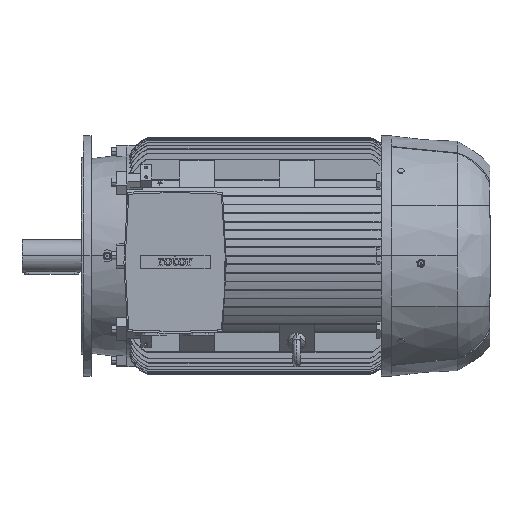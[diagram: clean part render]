
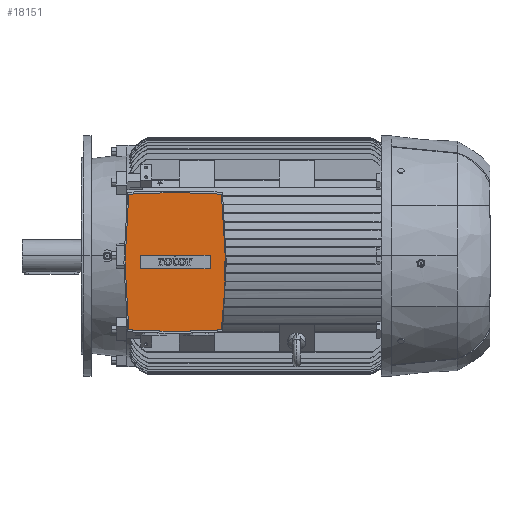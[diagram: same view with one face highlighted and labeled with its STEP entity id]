
A CAD part, top view. The second image highlights one B-rep face of the part: STEP entity #18151.
In plain terms, the highlighted planar face has unit normal (0, 0, 1).
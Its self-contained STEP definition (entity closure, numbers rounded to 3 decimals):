
#700 = B_SPLINE_CURVE_WITH_KNOTS ( 'NONE', 3,
 ( #14699, #5758, #10453, #18887 ),
 .UNSPECIFIED., .F., .F.,
 ( 4, 4 ),
 ( 0., 0.5 ),
 .UNSPECIFIED. ) ;
#977 = CARTESIAN_POINT ( 'NONE',  ( 4.096, 140.6, 433. ) ) ;
#1240 = VERTEX_POINT ( 'NONE', #26705 ) ;
#1309 = CARTESIAN_POINT ( 'NONE',  ( 215.904, -169.6, 433. ) ) ;
#1624 = B_SPLINE_CURVE_WITH_KNOTS ( 'NONE', 3,
 ( #38995, #46918, #18308, #47278, #22486, #51422 ),
 .UNSPECIFIED., .F., .F.,
 ( 4, 2, 4 ),
 ( 0., 0.5, 1. ),
 .UNSPECIFIED. ) ;
#1727 = ORIENTED_EDGE ( 'NONE', *, *, #26916, .F. ) ;
#3203 = CARTESIAN_POINT ( 'NONE',  ( 39.333, -172.199, 433. ) ) ;
#3645 = CARTESIAN_POINT ( 'NONE',  ( -1.629, 89.112, 433. ) ) ;
#5138 = VECTOR ( 'NONE', #40012, 1000. ) ;
#5290 = ORIENTED_EDGE ( 'NONE', *, *, #7889, .F. ) ;
#5758 = CARTESIAN_POINT ( 'NONE',  ( -1.629, -118.112, 433. ) ) ;
#5975 = CARTESIAN_POINT ( 'NONE',  ( 110., -173.5, 433. ) ) ;
#6400 = VERTEX_POINT ( 'NONE', #51946 ) ;
#6584 = CARTESIAN_POINT ( 'NONE',  ( 190., -14.5, 433. ) ) ;
#7063 = CARTESIAN_POINT ( 'NONE',  ( 30., -14.5, 433. ) ) ;
#7427 = ORIENTED_EDGE ( 'NONE', *, *, #27654, .F. ) ;
#7492 = CARTESIAN_POINT ( 'NONE',  ( 110., -14.5, 433. ) ) ;
#7889 = EDGE_CURVE ( 'NONE', #29086, #30637, #700, .T. ) ;
#10006 = ORIENTED_EDGE ( 'NONE', *, *, #26277, .T. ) ;
#10453 = CARTESIAN_POINT ( 'NONE',  ( -4.5, -66.306, 433. ) ) ;
#11352 = DIRECTION ( 'NONE',  ( 0., 1., 0. ) ) ;
#11798 = DIRECTION ( 'NONE',  ( 0., 0., 1. ) ) ;
#11861 = CARTESIAN_POINT ( 'NONE',  ( 110., 144.5, 433. ) ) ;
#12167 = CARTESIAN_POINT ( 'NONE',  ( 30., 0.5, 433. ) ) ;
#13347 = CARTESIAN_POINT ( 'NONE',  ( 4.096, 140.6, 433. ) ) ;
#13861 = LINE ( 'NONE', #44323, #45633 ) ;
#14699 = CARTESIAN_POINT ( 'NONE',  ( 4.096, -169.6, 433. ) ) ;
#15036 = CARTESIAN_POINT ( 'NONE',  ( 110., 0.5, 433. ) ) ;
#15297 = CARTESIAN_POINT ( 'NONE',  ( 215.904, 140.6, 433. ) ) ;
#16462 = VERTEX_POINT ( 'NONE', #52742 ) ;
#16903 = FACE_OUTER_BOUND ( 'NONE', #36081, .T. ) ;
#17746 = LINE ( 'NONE', #6584, #5138 ) ;
#18051 = CARTESIAN_POINT ( 'NONE',  ( 110., 144.5, 433. ) ) ;
#18151 = ADVANCED_FACE ( 'NONE', ( #16903, #38965 ), #32558, .T. ) ;
#18308 = CARTESIAN_POINT ( 'NONE',  ( 224.5, 37.306, 433. ) ) ;
#18887 = CARTESIAN_POINT ( 'NONE',  ( -4.5, -14.5, 433. ) ) ;
#19267 = CARTESIAN_POINT ( 'NONE',  ( -4.5, -14.5, 433. ) ) ;
#22382 = CARTESIAN_POINT ( 'NONE',  ( 215.904, -169.6, 433. ) ) ;
#22486 = CARTESIAN_POINT ( 'NONE',  ( 221.629, -118.112, 433. ) ) ;
#22739 = CARTESIAN_POINT ( 'NONE',  ( 180.667, -172.199, 433. ) ) ;
#23372 = VERTEX_POINT ( 'NONE', #12167 ) ;
#23456 = ORIENTED_EDGE ( 'NONE', *, *, #25707, .T. ) ;
#23901 = VERTEX_POINT ( 'NONE', #26634 ) ;
#24208 = CARTESIAN_POINT ( 'NONE',  ( 110., -173.5, 433. ) ) ;
#24620 = EDGE_CURVE ( 'NONE', #6400, #16462, #13861, .T. ) ;
#24625 = CARTESIAN_POINT ( 'NONE',  ( -4.5, -14.5, 433. ) ) ;
#24869 = ORIENTED_EDGE ( 'NONE', *, *, #24620, .T. ) ;
#25167 = EDGE_CURVE ( 'NONE', #16462, #23372, #44983, .T. ) ;
#25707 = EDGE_CURVE ( 'NONE', #23372, #23901, #32097, .T. ) ;
#26277 = EDGE_CURVE ( 'NONE', #23901, #6400, #17746, .T. ) ;
#26634 = CARTESIAN_POINT ( 'NONE',  ( 190., 0.5, 433. ) ) ;
#26705 = CARTESIAN_POINT ( 'NONE',  ( 110., -173.5, 433. ) ) ;
#26800 = AXIS2_PLACEMENT_3D ( 'NONE', #7492, #11798, #40881 ) ;
#26916 = EDGE_CURVE ( 'NONE', #29254, #49216, #40100, .T. ) ;
#27243 = EDGE_CURVE ( 'NONE', #34463, #29254, #45686, .T. ) ;
#27654 = EDGE_CURVE ( 'NONE', #30637, #34463, #52455, .T. ) ;
#28120 = EDGE_CURVE ( 'NONE', #1240, #29086, #29261, .T. ) ;
#28288 = EDGE_CURVE ( 'NONE', #46655, #1240, #34941, .T. ) ;
#28389 = CARTESIAN_POINT ( 'NONE',  ( 74.667, -173.5, 433. ) ) ;
#28448 = CARTESIAN_POINT ( 'NONE',  ( 180.667, 143.199, 433. ) ) ;
#28684 = EDGE_CURVE ( 'NONE', #49216, #46655, #1624, .T. ) ;
#28806 = CARTESIAN_POINT ( 'NONE',  ( -4.5, 37.306, 433. ) ) ;
#29086 = VERTEX_POINT ( 'NONE', #50242 ) ;
#29254 = VERTEX_POINT ( 'NONE', #46621 ) ;
#29261 = B_SPLINE_CURVE_WITH_KNOTS ( 'NONE', 3,
 ( #24208, #28389, #3203, #32569 ),
 .UNSPECIFIED., .F., .F.,
 ( 4, 4 ),
 ( 0., 1. ),
 .UNSPECIFIED. ) ;
#30022 = ORIENTED_EDGE ( 'NONE', *, *, #28288, .F. ) ;
#30399 = CARTESIAN_POINT ( 'NONE',  ( 39.333, 143.199, 433. ) ) ;
#30637 = VERTEX_POINT ( 'NONE', #19267 ) ;
#31080 = CARTESIAN_POINT ( 'NONE',  ( 145.333, -173.5, 433. ) ) ;
#32097 = LINE ( 'NONE', #15036, #52752 ) ;
#32558 = PLANE ( 'NONE',  #26800 ) ;
#32569 = CARTESIAN_POINT ( 'NONE',  ( 4.096, -169.6, 433. ) ) ;
#32987 = CARTESIAN_POINT ( 'NONE',  ( 4.096, 140.6, 433. ) ) ;
#34007 = VECTOR ( 'NONE', #11352, 1000. ) ;
#34463 = VERTEX_POINT ( 'NONE', #13347 ) ;
#34941 = B_SPLINE_CURVE_WITH_KNOTS ( 'NONE', 3,
 ( #1309, #22739, #31080, #5975 ),
 .UNSPECIFIED., .F., .F.,
 ( 4, 4 ),
 ( 0., 1. ),
 .UNSPECIFIED. ) ;
#36081 = EDGE_LOOP ( 'NONE', ( #1727, #44767, #7427, #5290, #51075, #30022, #50360 ) ) ;
#38965 = FACE_BOUND ( 'NONE', #41688, .T. ) ;
#38995 = CARTESIAN_POINT ( 'NONE',  ( 215.904, 140.6, 433. ) ) ;
#39893 = DIRECTION ( 'NONE',  ( 1., 0., 0. ) ) ;
#40012 = DIRECTION ( 'NONE',  ( 0., -1., 0. ) ) ;
#40100 = B_SPLINE_CURVE_WITH_KNOTS ( 'NONE', 3,
 ( #11861, #49055, #28448, #40945 ),
 .UNSPECIFIED., .F., .F.,
 ( 4, 4 ),
 ( 0., 1. ),
 .UNSPECIFIED. ) ;
#40881 = DIRECTION ( 'NONE',  ( 1., 0., 0. ) ) ;
#40945 = CARTESIAN_POINT ( 'NONE',  ( 215.904, 140.6, 433. ) ) ;
#41688 = EDGE_LOOP ( 'NONE', ( #23456, #10006, #24869, #48516 ) ) ;
#42890 = CARTESIAN_POINT ( 'NONE',  ( 74.667, 144.5, 433. ) ) ;
#44323 = CARTESIAN_POINT ( 'NONE',  ( 110., -29.5, 433. ) ) ;
#44767 = ORIENTED_EDGE ( 'NONE', *, *, #27243, .F. ) ;
#44983 = LINE ( 'NONE', #7063, #34007 ) ;
#45633 = VECTOR ( 'NONE', #48114, 1000. ) ;
#45686 = B_SPLINE_CURVE_WITH_KNOTS ( 'NONE', 3,
 ( #977, #30399, #42890, #18051 ),
 .UNSPECIFIED., .F., .F.,
 ( 4, 4 ),
 ( 0., 1. ),
 .UNSPECIFIED. ) ;
#46621 = CARTESIAN_POINT ( 'NONE',  ( 110., 144.5, 433. ) ) ;
#46655 = VERTEX_POINT ( 'NONE', #22382 ) ;
#46918 = CARTESIAN_POINT ( 'NONE',  ( 221.629, 89.112, 433. ) ) ;
#47278 = CARTESIAN_POINT ( 'NONE',  ( 224.5, -66.306, 433. ) ) ;
#48114 = DIRECTION ( 'NONE',  ( -1., 0., 0. ) ) ;
#48516 = ORIENTED_EDGE ( 'NONE', *, *, #25167, .T. ) ;
#49055 = CARTESIAN_POINT ( 'NONE',  ( 145.333, 144.5, 433. ) ) ;
#49216 = VERTEX_POINT ( 'NONE', #15297 ) ;
#50242 = CARTESIAN_POINT ( 'NONE',  ( 4.096, -169.6, 433. ) ) ;
#50360 = ORIENTED_EDGE ( 'NONE', *, *, #28684, .F. ) ;
#51075 = ORIENTED_EDGE ( 'NONE', *, *, #28120, .F. ) ;
#51422 = CARTESIAN_POINT ( 'NONE',  ( 215.904, -169.6, 433. ) ) ;
#51946 = CARTESIAN_POINT ( 'NONE',  ( 190., -29.5, 433. ) ) ;
#52455 = B_SPLINE_CURVE_WITH_KNOTS ( 'NONE', 3,
 ( #24625, #28806, #3645, #32987 ),
 .UNSPECIFIED., .F., .F.,
 ( 4, 4 ),
 ( 0.5, 1. ),
 .UNSPECIFIED. ) ;
#52742 = CARTESIAN_POINT ( 'NONE',  ( 30., -29.5, 433. ) ) ;
#52752 = VECTOR ( 'NONE', #39893, 1000. ) ;
